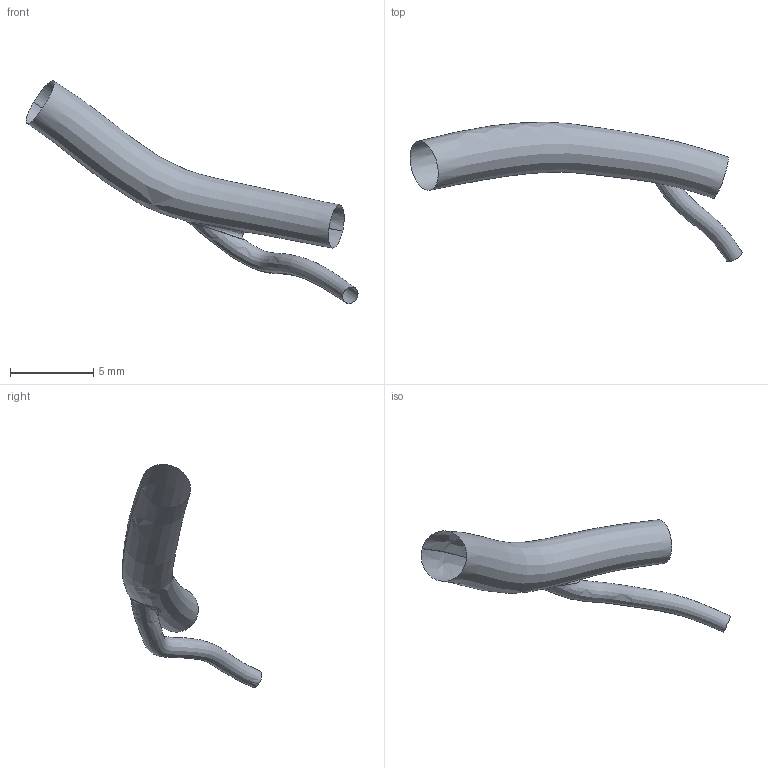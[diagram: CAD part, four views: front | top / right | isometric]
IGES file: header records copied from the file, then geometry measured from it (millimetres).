
Global section: file name: C:\Documents and Settings\Administrator\Desktop\FDA-Pig\Domestic RCA\Pig_000137\rv.es.igs; native system: Rhinoceros ( May 19 2006 ); preprocessor: Trout Lake IGES 012 May 19 2006; date: 111205.185835; units: centimetre
Bounding box: 19.98 x 8.39 x 13.42 mm (x, y, z)
Surface area: 229.1 mm2 (no closed solid volume)
Topology: 0 solids, 0 shells, 3 faces, 50 edges, 47 vertices
Faces by surface type: bspline 3
